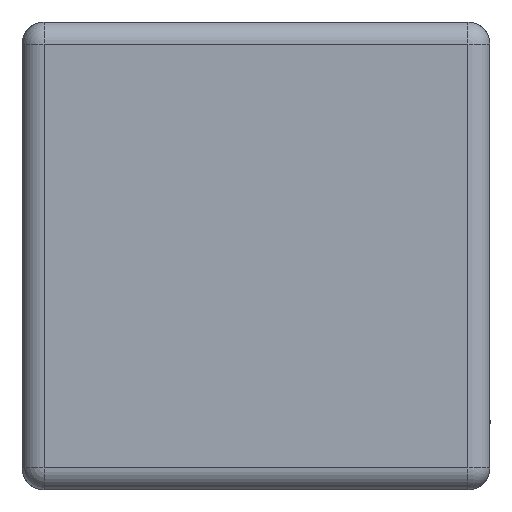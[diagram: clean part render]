
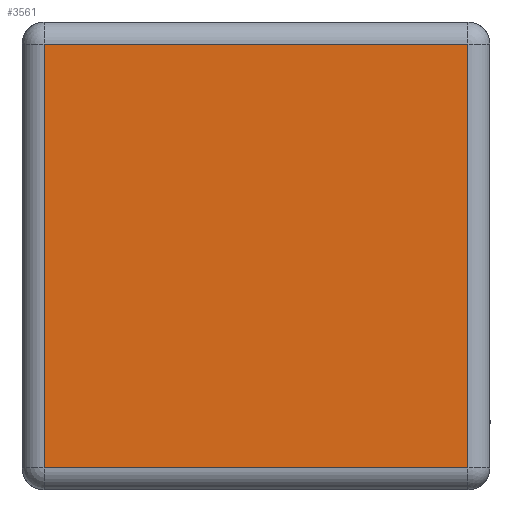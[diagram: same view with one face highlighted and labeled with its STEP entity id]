
A CAD part, front view. The second image highlights one B-rep face of the part: STEP entity #3561.
In plain terms, the highlighted planar face has unit normal (0, -1, 0).
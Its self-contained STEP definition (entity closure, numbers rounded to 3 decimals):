
#53 = ORIENTED_EDGE ( 'NONE', *, *, #2830, .T. ) ;
#176 = DIRECTION ( 'NONE',  ( 0., 0., -1. ) ) ;
#184 = CARTESIAN_POINT ( 'NONE',  ( 0., -62.022, -9.5 ) ) ;
#229 = DIRECTION ( 'NONE',  ( -1., 0., 0. ) ) ;
#524 = VECTOR ( 'NONE', #1856, 1000. ) ;
#821 = CARTESIAN_POINT ( 'NONE',  ( 9.5, -62.022, 0. ) ) ;
#852 = CARTESIAN_POINT ( 'NONE',  ( 0., -62.022, 0. ) ) ;
#932 = LINE ( 'NONE', #2572, #3214 ) ;
#988 = CARTESIAN_POINT ( 'NONE',  ( 0., -62.022, 9.5 ) ) ;
#1377 = EDGE_CURVE ( 'NONE', #4363, #3085, #2837, .T. ) ;
#1405 = ORIENTED_EDGE ( 'NONE', *, *, #1377, .T. ) ;
#1518 = ORIENTED_EDGE ( 'NONE', *, *, #4380, .T. ) ;
#1543 = EDGE_CURVE ( 'NONE', #2953, #3399, #932, .T. ) ;
#1762 = AXIS2_PLACEMENT_3D ( 'NONE', #852, #3222, #176 ) ;
#1856 = DIRECTION ( 'NONE',  ( 0., 0., 1. ) ) ;
#1898 = LINE ( 'NONE', #184, #3321 ) ;
#2038 = VECTOR ( 'NONE', #229, 1000. ) ;
#2082 = ORIENTED_EDGE ( 'NONE', *, *, #1543, .T. ) ;
#2236 = DIRECTION ( 'NONE',  ( 0., 0., -1. ) ) ;
#2512 = FACE_OUTER_BOUND ( 'NONE', #3587, .T. ) ;
#2572 = CARTESIAN_POINT ( 'NONE',  ( -9.5, -62.022, 0. ) ) ;
#2830 = EDGE_CURVE ( 'NONE', #3399, #4363, #1898, .T. ) ;
#2837 = LINE ( 'NONE', #821, #524 ) ;
#2953 = VERTEX_POINT ( 'NONE', #3933 ) ;
#2986 = CARTESIAN_POINT ( 'NONE',  ( 9.5, -62.022, -9.5 ) ) ;
#3085 = VERTEX_POINT ( 'NONE', #3381 ) ;
#3214 = VECTOR ( 'NONE', #2236, 1000. ) ;
#3222 = DIRECTION ( 'NONE',  ( 0., -1., 0. ) ) ;
#3321 = VECTOR ( 'NONE', #4188, 1000. ) ;
#3381 = CARTESIAN_POINT ( 'NONE',  ( 9.5, -62.022, 9.5 ) ) ;
#3399 = VERTEX_POINT ( 'NONE', #3839 ) ;
#3538 = PLANE ( 'NONE',  #1762 ) ;
#3561 = ADVANCED_FACE ( 'NONE', ( #2512 ), #3538, .T. ) ;
#3587 = EDGE_LOOP ( 'NONE', ( #1405, #1518, #2082, #53 ) ) ;
#3839 = CARTESIAN_POINT ( 'NONE',  ( -9.5, -62.022, -9.5 ) ) ;
#3933 = CARTESIAN_POINT ( 'NONE',  ( -9.5, -62.022, 9.5 ) ) ;
#4188 = DIRECTION ( 'NONE',  ( 1., 0., 0. ) ) ;
#4354 = LINE ( 'NONE', #988, #2038 ) ;
#4363 = VERTEX_POINT ( 'NONE', #2986 ) ;
#4380 = EDGE_CURVE ( 'NONE', #3085, #2953, #4354, .T. ) ;
